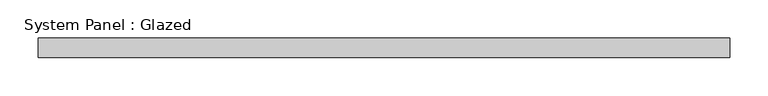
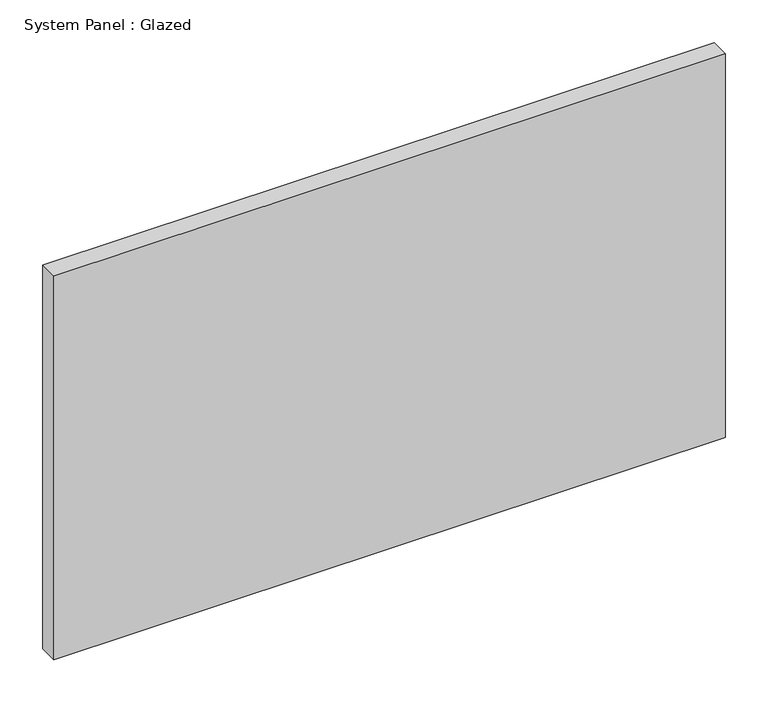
"""IFC4 building model written with IfcOpenShell, lengths in millimetres: plate geometry, System Panel : Glazed."""

from ifc_helpers import new_model, si_unit, origin, origin_with_axes, place, context, project, spatial, polyline, outline, extrude, source, transform, mapped, element, save


def system_panel_glazed_09571809(model_context):
    return source(origin(), model_context, "Body", "SweptSolid", [
        extrude(outline(polyline([(451.3791667, -44.45), (-451.3791667, -44.45), (-451.3791667, -19.05), (451.3791667, -19.05), (451.3791667, -44.45)])), origin_with_axes(), (0.0, 0.0, 1.0), 546.1),
    ])


if __name__ == "__main__":
    model = new_model("IFC4")
    model_context = context("Model", 3, world=origin())
    ifc_project = project(units=[si_unit("LENGTHUNIT", "METRE", prefix="MILLI")], contexts=[model_context])
    site = spatial("IfcSite", under=ifc_project)
    building = spatial("IfcBuilding", under=site)
    placement = place(None, origin())
    system_panel_glazed_shape = system_panel_glazed_09571809(model_context)
    element("IfcPlate", 1, ObjectType="System Panel : Glazed", at=placement, inside=building, context=model_context, shape_type="MappedRepresentation", body=[
        mapped(system_panel_glazed_shape, transform((0.0, 0.0, 0.0), x_axis=(1.0, 0.0, 0.0), y_axis=(0.0, 1.0, 0.0), z_axis=(0.0, 0.0, 1.0))),
    ])
    save(model, "model.ifc")
